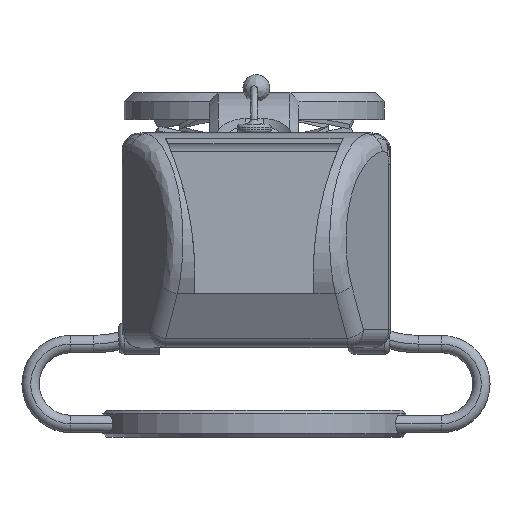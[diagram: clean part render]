
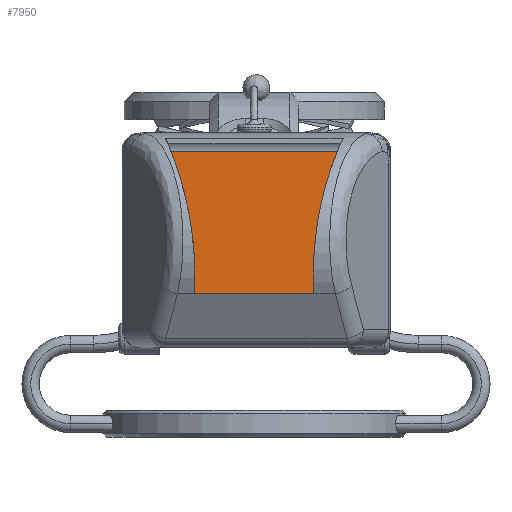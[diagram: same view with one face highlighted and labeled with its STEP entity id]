
A CAD part, top view. The second image highlights one B-rep face of the part: STEP entity #7950.
In plain terms, the highlighted planar face has unit normal (0, 0, 1).
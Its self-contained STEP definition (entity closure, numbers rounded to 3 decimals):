
#243=PLANE('',#8621);
#509=LINE('',#20071,#1037);
#511=LINE('',#20081,#1039);
#514=LINE('',#20104,#1042);
#516=LINE('',#20107,#1044);
#1037=VECTOR('',#9697,10.);
#1039=VECTOR('',#9711,10.);
#1042=VECTOR('',#9744,10.);
#1044=VECTOR('',#9748,10.);
#1764=FACE_OUTER_BOUND('',#2275,.T.);
#2275=EDGE_LOOP('',(#6041,#6042,#6043,#6044));
#3596=VERTEX_POINT('',#19900);
#3599=VERTEX_POINT('',#20067);
#3601=VERTEX_POINT('',#20074);
#3606=VERTEX_POINT('',#20100);
#4479=EDGE_CURVE('',#3599,#3596,#509,.T.);
#4484=EDGE_CURVE('',#3596,#3601,#511,.T.);
#4496=EDGE_CURVE('',#3601,#3606,#514,.T.);
#4498=EDGE_CURVE('',#3606,#3599,#516,.T.);
#6041=ORIENTED_EDGE('',*,*,#4479,.T.);
#6042=ORIENTED_EDGE('',*,*,#4484,.T.);
#6043=ORIENTED_EDGE('',*,*,#4496,.T.);
#6044=ORIENTED_EDGE('',*,*,#4498,.T.);
#7950=ADVANCED_FACE('',(#1764),#243,.F.);
#8621=AXIS2_PLACEMENT_3D('',#20327,#9782,#9783);
#9697=DIRECTION('',(1.,0.,0.));
#9711=DIRECTION('',(0.,1.,0.));
#9744=DIRECTION('',(-1.,0.,0.));
#9748=DIRECTION('',(0.,-1.,0.));
#9782=DIRECTION('center_axis',(0.,0.,-1.));
#9783=DIRECTION('ref_axis',(0.,-1.,0.));
#19900=CARTESIAN_POINT('',(66.193,-51.014,-70.248));
#20067=CARTESIAN_POINT('',(-63.807,-51.014,-70.248));
#20071=CARTESIAN_POINT('',(38.693,-51.014,-70.248));
#20074=CARTESIAN_POINT('',(66.193,48.986,-70.248));
#20081=CARTESIAN_POINT('',(66.193,28.986,-70.248));
#20100=CARTESIAN_POINT('',(-63.807,48.986,-70.248));
#20104=CARTESIAN_POINT('',(38.693,48.986,-70.248));
#20107=CARTESIAN_POINT('',(-63.807,28.986,-70.248));
#20327=CARTESIAN_POINT('Origin',(76.193,58.986,-70.248));
